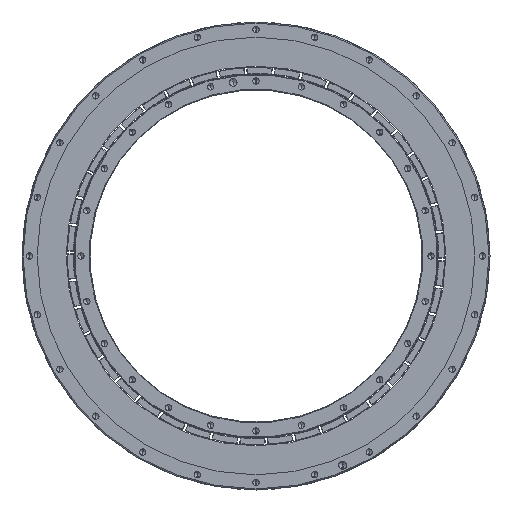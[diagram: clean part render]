
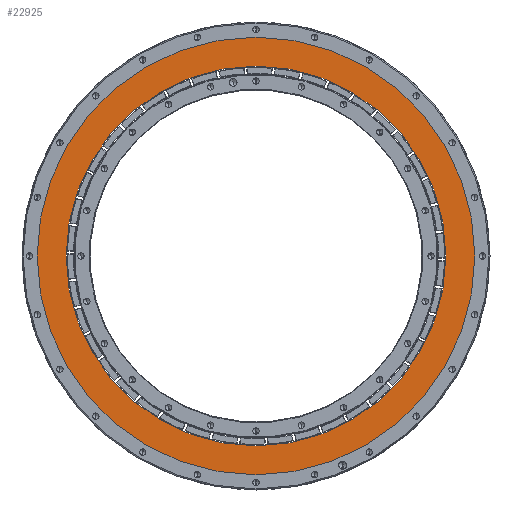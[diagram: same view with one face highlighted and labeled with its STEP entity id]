
A CAD part, front view. The second image highlights one B-rep face of the part: STEP entity #22925.
In plain terms, the highlighted planar face has unit normal (0, -1, 0).
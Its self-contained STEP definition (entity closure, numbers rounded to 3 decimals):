
#1323 = EDGE_CURVE ( 'NONE', #33573, #9228, #17300, .T. ) ;
#1790 = CARTESIAN_POINT ( 'NONE',  ( 0., -69., 0. ) ) ;
#2962 = CARTESIAN_POINT ( 'NONE',  ( 0., -69., 144.945 ) ) ;
#3705 = CIRCLE ( 'NONE', #34170, 125.77 ) ;
#9228 = VERTEX_POINT ( 'NONE', #41710 ) ;
#9276 = EDGE_CURVE ( 'NONE', #42162, #18136, #3705, .T. ) ;
#10888 = DIRECTION ( 'NONE',  ( 0., 0., 1. ) ) ;
#11727 = DIRECTION ( 'NONE',  ( 0., 0., 1. ) ) ;
#11973 = EDGE_CURVE ( 'NONE', #9228, #33573, #14556, .T. ) ;
#12039 = PLANE ( 'NONE',  #24727 ) ;
#14017 = DIRECTION ( 'NONE',  ( 0., 1., 0. ) ) ;
#14556 = CIRCLE ( 'NONE', #21581, 144.945 ) ;
#14746 = DIRECTION ( 'NONE',  ( 0., 0., 1. ) ) ;
#15159 = ORIENTED_EDGE ( 'NONE', *, *, #1323, .F. ) ;
#16643 = ORIENTED_EDGE ( 'NONE', *, *, #9276, .T. ) ;
#17300 = CIRCLE ( 'NONE', #21495, 144.945 ) ;
#17540 = CARTESIAN_POINT ( 'NONE',  ( 0., -69., 0. ) ) ;
#18136 = VERTEX_POINT ( 'NONE', #29205 ) ;
#19945 = AXIS2_PLACEMENT_3D ( 'NONE', #27830, #37838, #14746 ) ;
#20685 = CARTESIAN_POINT ( 'NONE',  ( 0., -69., 0. ) ) ;
#21138 = DIRECTION ( 'NONE',  ( 0., 0., 1. ) ) ;
#21253 = EDGE_LOOP ( 'NONE', ( #43525, #15159 ) ) ;
#21495 = AXIS2_PLACEMENT_3D ( 'NONE', #20685, #24720, #21138 ) ;
#21581 = AXIS2_PLACEMENT_3D ( 'NONE', #17540, #14017, #10888 ) ;
#22210 = FACE_OUTER_BOUND ( 'NONE', #21253, .T. ) ;
#22925 = ADVANCED_FACE ( 'NONE', ( #22210, #42017 ), #12039, .F. ) ;
#24510 = EDGE_CURVE ( 'NONE', #18136, #42162, #37029, .T. ) ;
#24610 = DIRECTION ( 'NONE',  ( 0., 1., 0. ) ) ;
#24720 = DIRECTION ( 'NONE',  ( 0., 1., 0. ) ) ;
#24727 = AXIS2_PLACEMENT_3D ( 'NONE', #25347, #38714, #42231 ) ;
#25347 = CARTESIAN_POINT ( 'NONE',  ( 0., -69., 0. ) ) ;
#26886 = CARTESIAN_POINT ( 'NONE',  ( 0., -69., -125.77 ) ) ;
#27830 = CARTESIAN_POINT ( 'NONE',  ( 0., -69., 0. ) ) ;
#29205 = CARTESIAN_POINT ( 'NONE',  ( 0., -69., 125.77 ) ) ;
#32536 = EDGE_LOOP ( 'NONE', ( #16643, #37580 ) ) ;
#33573 = VERTEX_POINT ( 'NONE', #2962 ) ;
#34170 = AXIS2_PLACEMENT_3D ( 'NONE', #1790, #24610, #11727 ) ;
#37029 = CIRCLE ( 'NONE', #19945, 125.77 ) ;
#37580 = ORIENTED_EDGE ( 'NONE', *, *, #24510, .T. ) ;
#37838 = DIRECTION ( 'NONE',  ( 0., 1., 0. ) ) ;
#38714 = DIRECTION ( 'NONE',  ( 0., 1., 0. ) ) ;
#41710 = CARTESIAN_POINT ( 'NONE',  ( 0., -69., -144.945 ) ) ;
#42017 = FACE_BOUND ( 'NONE', #32536, .T. ) ;
#42162 = VERTEX_POINT ( 'NONE', #26886 ) ;
#42231 = DIRECTION ( 'NONE',  ( 0., 0., 1. ) ) ;
#43525 = ORIENTED_EDGE ( 'NONE', *, *, #11973, .F. ) ;
